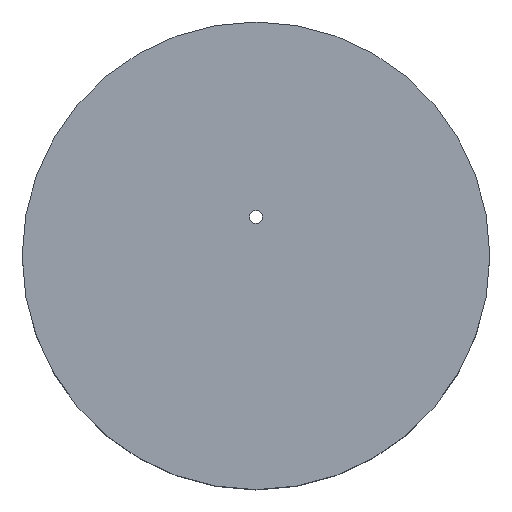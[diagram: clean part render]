
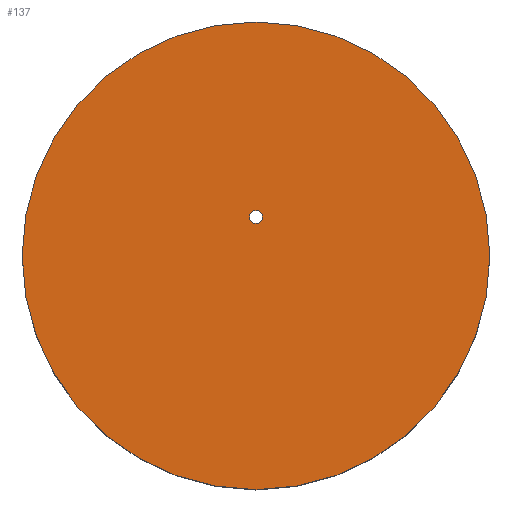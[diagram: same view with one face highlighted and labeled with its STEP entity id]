
A CAD part, top view. The second image highlights one B-rep face of the part: STEP entity #137.
In plain terms, the highlighted planar face has unit normal (0, 0, 1).
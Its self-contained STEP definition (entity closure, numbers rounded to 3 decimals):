
#78=CARTESIAN_POINT('',(30.75,0.,1.5));
#79=VERTEX_POINT('',#78);
#86=CARTESIAN_POINT('',(0.,0.,1.5));
#87=DIRECTION('',(1.,0.,0.));
#88=DIRECTION('',(0.,0.,1.));
#89=AXIS2_PLACEMENT_3D('',#86,#88,#87);
#90=CIRCLE('',#89,30.75);
#91=EDGE_CURVE('',#79,#79,#90,.T.);
#118=CARTESIAN_POINT('',(0.,0.,1.5));
#119=DIRECTION('',(1.,0.,0.));
#120=DIRECTION('',(0.,0.,-1.));
#121=AXIS2_PLACEMENT_3D('',#118,#120,#119);
#122=PLANE('',#121);
#123=ORIENTED_EDGE('',*,*,#91,.F.);
#124=EDGE_LOOP('',(#123));
#125=FACE_OUTER_BOUND('',#124,.F.);
#126=CARTESIAN_POINT('',(0.85,5.1,1.5));
#127=VERTEX_POINT('',#126);
#128=CARTESIAN_POINT('',(0.,5.1,1.5));
#129=DIRECTION('',(1.,0.,0.));
#130=DIRECTION('',(0.,0.,-1.));
#131=AXIS2_PLACEMENT_3D('',#128,#130,#129);
#132=CIRCLE('',#131,0.85);
#133=EDGE_CURVE('',#127,#127,#132,.T.);
#134=ORIENTED_EDGE('E8',*,*,#133,.F.);
#135=EDGE_LOOP('',(#134));
#136=FACE_BOUND('',#135,.F.);
#137=ADVANCED_FACE('F5',(#125,#136),#122,.F.);
